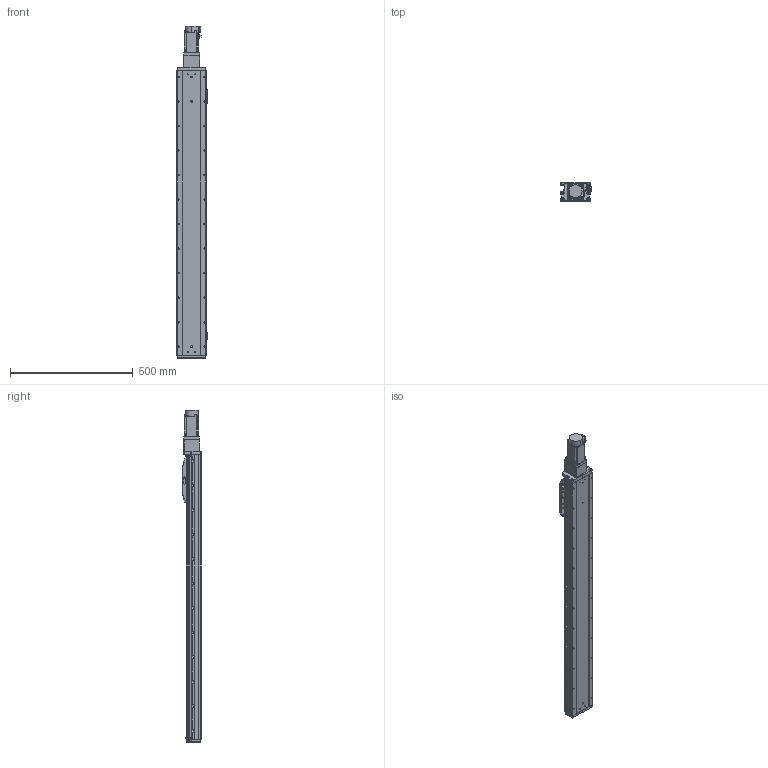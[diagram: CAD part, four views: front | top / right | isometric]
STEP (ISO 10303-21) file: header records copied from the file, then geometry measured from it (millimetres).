
FILE_DESCRIPTION (( 'STEP AP203' ), '1' );
FILE_NAME ('GTH12-950-BC-M40-C4.step', '2022-09-23T01:16:33', ( '微软用户' ), ( '微软中国' ), 'SwSTEP 2.0', 'SolidWorks 2020', '' );
FILE_SCHEMA (( 'CONFIG_CONTROL_DESIGN' ));
Length unit declared in the file: millimetre
Products named in the file (19): CTHA86-013; GTH120-006; GTH80-028; CTHA86-027; GTH120-004; GTH50-023; hg-kn43j_-s100_; GTH120-013; GTH50-024; GTH12-950-BC-M40-C4; GBT 70.1-M3℅6; GBT96.1-2002 3×0.8; GBT 70.1-M5×16; BTH-M3X5X6; GTH120-001_950; GBT 70.3-M3℅8; CTHA86-006-1_CTHA86-006-2; GTH120-003; GTH80-022
Assembly tree (62 placements, depth 2):
  GTH12-950-BC-M40-C4
    GTH120-001_950
    GTH120-003
    GTH120-006
    GTH120-004
    GTH120-013
    GBT 70.1-M3℅6  x14
    GBT 70.1-M5×16  x10
    GBT 70.3-M3℅8  x6
    GTH80-022
    GTH80-028  x2
    GTH50-023  x3
    GTH50-024  x3
    GBT96.1-2002 3×0.8  x6
    BTH-M3X5X6  x8
    CTHA86-006-1_CTHA86-006-2
    CTHA86-013
    CTHA86-027
    hg-kn43j_-s100_
Bounding box: 125.7 x 76 x 1353.7 mm (x, y, z)
Volume: 8637562.5 mm3; surface area: 741431 mm2
Topology: 64 solids, 64 shells, 2533 faces, 5896 edges, 3595 vertices
Faces by surface type: plane 1280, cylinder 732, cone 343, torus 170, sphere 8
Entity records: 46445 total; most frequent: DIRECTION 7790, CARTESIAN_POINT 7472, ORIENTED_EDGE 7174, EDGE_CURVE 3587, AXIS2_PLACEMENT_3D 2722, VECTOR 2346, LINE 2346, VERTEX_POINT 2254
